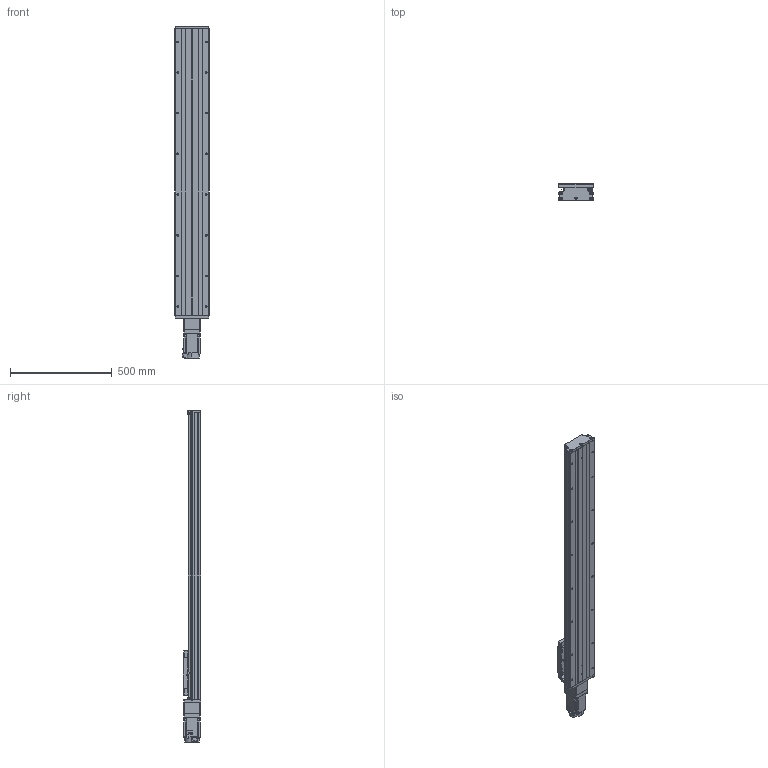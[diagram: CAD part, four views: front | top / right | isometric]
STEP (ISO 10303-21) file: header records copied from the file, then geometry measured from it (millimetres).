
FILE_DESCRIPTION (( 'STEP AP203' ), '1' );
FILE_NAME ('GTH17-1150-BC-M75-C4.step', '2023-06-30T11:20:11', ( '微软用户' ), ( '微软中国' ), 'SwSTEP 2.0', 'SolidWorks 2020', '' );
FILE_SCHEMA (( 'CONFIG_CONTROL_DESIGN' ));
Length unit declared in the file: millimetre
Products named in the file (20): EE_SX911P_R; す晦芛蹟隊 M3℅5; GTH17-001_1150; CTHA60-016; GBT 70.3-M3℅8; GTH17-002_GTH17-002; GBT 70.1-M3℅5; GTH17-006-2_M75; GTH17-004; GBT77-2000 M3×3; GTH17-013; GTH17-005; GBT 70.1-M6¡Á20_M6¡Á20; GTH17-027-1; GB1155-6X6; GTH17-031; HG-KN73J-S100; CTHA60-017; GBT 70.2-M3¡Á5_M3¡Á6; GTH17-1150-BC-M75-C4
Assembly tree (57 placements, depth 2):
  GTH17-1150-BC-M75-C4
    GTH17-001_1150
    GTH17-002_GTH17-002
    GTH17-004
    GTH17-005
    GB1155-6X6  x2
    CTHA60-017  x3
    EE_SX911P_R  x3
    CTHA60-016  x2
    GBT 70.1-M3℅5  x6
    GBT77-2000 M3×3  x6
    GBT 70.1-M6¡Á20_M6¡Á20  x10
    GTH17-031
    GBT 70.2-M3¡Á5_M3¡Á6  x8
    す晦芛蹟隊 M3℅5  x6
    GBT 70.3-M3℅8  x2
    GTH17-006-2_M75
    GTH17-013
    GTH17-027-1
    HG-KN73J-S100
Bounding box: 171 x 87 x 1631.2 mm (x, y, z)
Volume: 12238890 mm3; surface area: 1525382 mm2
Topology: 60 solids, 60 shells, 2434 faces, 5821 edges, 3611 vertices
Faces by surface type: plane 1309, cylinder 678, cone 287, torus 120, sphere 20, bspline 20
Entity records: 45761 total; most frequent: CARTESIAN_POINT 10527, DIRECTION 6657, ORIENTED_EDGE 6558, EDGE_CURVE 3279, AXIS2_PLACEMENT_3D 2275, VECTOR 2107, LINE 2107, VERTEX_POINT 2079
